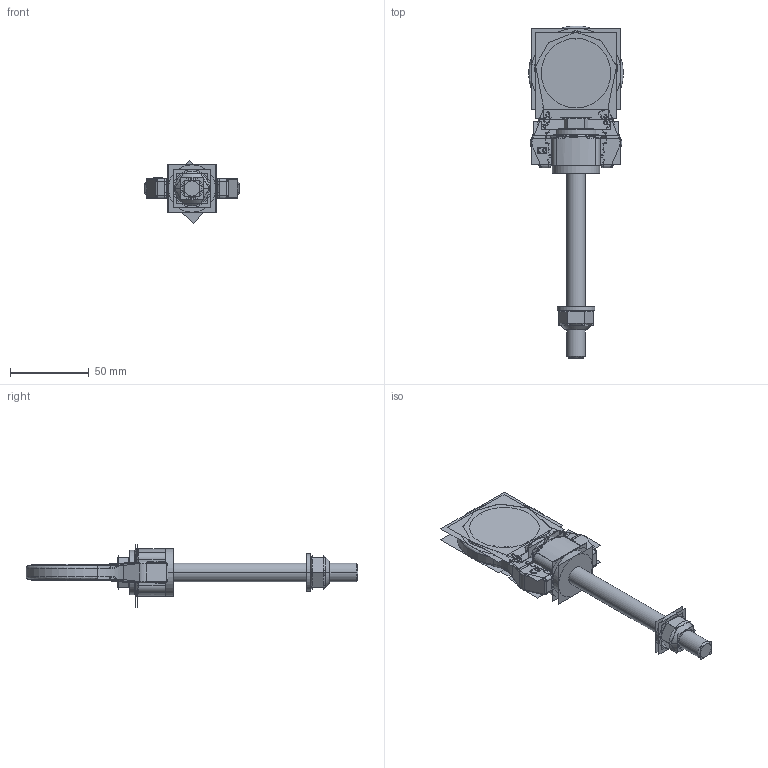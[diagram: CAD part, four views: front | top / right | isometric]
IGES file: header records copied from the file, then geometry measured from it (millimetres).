
Start section:  PTC IGES file: ACP_1,35t-M12_XXXXXXX_M35810-P-2-MAX.igs
Bounding box: 59.96 x 210.43 x 39.75 mm (x, y, z)
Volume: 64023 mm3; surface area: 156357.3 mm2
Topology: 7 solids, 8 shells, 1954 faces, 9640 edges, 11891 vertices
Faces by surface type: bspline 1314, revolution 640
